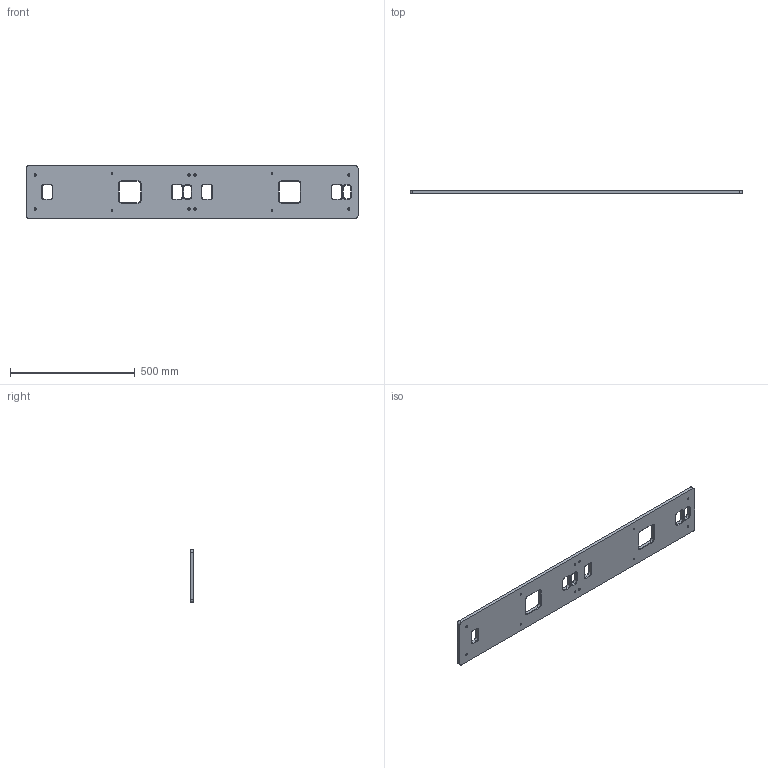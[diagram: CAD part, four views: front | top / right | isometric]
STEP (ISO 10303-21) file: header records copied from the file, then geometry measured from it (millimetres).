
FILE_DESCRIPTION (( 'STEP AP214' ), '1' );
FILE_NAME ('S4-AN-4.8 Flyway Mounting Plate Example 1X2, Blind Hole Option.STEP', '2025-08-13T19:31:57', ( '' ), ( '' ), 'SwSTEP 2.0', 'SolidWorks 2022', '' );
FILE_SCHEMA (( 'AUTOMOTIVE_DESIGN' ));
Length unit declared in the file: millimetre
Products named in the file (1): S4-AN-4.8 Flyway Mounting Plate Example 1X2, Blind Hole Option
Bounding box: 1330 x 15 x 210 mm (x, y, z)
Volume: 3774823.4 mm3; surface area: 578008.5 mm2
Topology: 1 solids, 1 shells, 324 faces, 864 edges, 552 vertices
Faces by surface type: plane 216, cylinder 68, cone 40
Entity records: 10117 total; most frequent: CARTESIAN_POINT 1741, ORIENTED_EDGE 1728, DIRECTION 1690, EDGE_CURVE 864, LINE 688, VECTOR 688, VERTEX_POINT 552, AXIS2_PLACEMENT_3D 501
